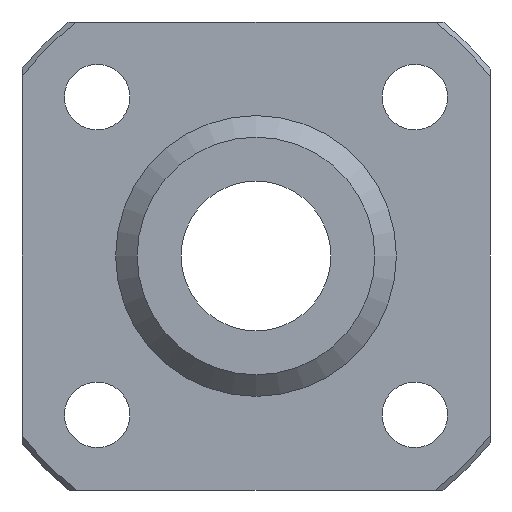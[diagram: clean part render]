
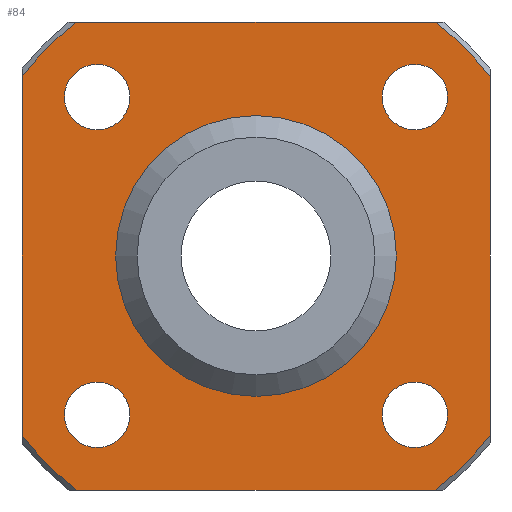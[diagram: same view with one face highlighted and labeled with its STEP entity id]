
A CAD part, left-side view. The second image highlights one B-rep face of the part: STEP entity #84.
In plain terms, the highlighted planar face has unit normal (-1, 0, 0).
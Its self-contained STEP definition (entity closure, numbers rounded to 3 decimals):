
#84=ADVANCED_FACE('',(#143,#144,#145,#146,#147,#148),#149,.T.);
#143=FACE_BOUND('',#246,.T.);
#144=FACE_BOUND('',#247,.T.);
#145=FACE_BOUND('',#248,.T.);
#146=FACE_BOUND('',#249,.T.);
#147=FACE_BOUND('',#250,.T.);
#148=FACE_OUTER_BOUND('',#251,.T.);
#149=PLANE('',#252);
#246=EDGE_LOOP('',(#381));
#247=EDGE_LOOP('',(#382));
#248=EDGE_LOOP('',(#383));
#249=EDGE_LOOP('',(#384));
#250=EDGE_LOOP('',(#385));
#251=EDGE_LOOP('',(#386,#387,#388,#389,#390,#391,#392,#393));
#252=AXIS2_PLACEMENT_3D('',#394,#395,#396);
#381=ORIENTED_EDGE('',*,*,#600,.T.);
#382=ORIENTED_EDGE('',*,*,#601,.F.);
#383=ORIENTED_EDGE('',*,*,#602,.F.);
#384=ORIENTED_EDGE('',*,*,#603,.F.);
#385=ORIENTED_EDGE('',*,*,#604,.F.);
#386=ORIENTED_EDGE('',*,*,#605,.T.);
#387=ORIENTED_EDGE('',*,*,#575,.T.);
#388=ORIENTED_EDGE('',*,*,#606,.T.);
#389=ORIENTED_EDGE('',*,*,#607,.T.);
#390=ORIENTED_EDGE('',*,*,#608,.T.);
#391=ORIENTED_EDGE('',*,*,#609,.T.);
#392=ORIENTED_EDGE('',*,*,#610,.T.);
#393=ORIENTED_EDGE('',*,*,#611,.T.);
#394=CARTESIAN_POINT('',(-8.0,7.5,0.0));
#395=DIRECTION('',(-1.0,0.0,0.0));
#396=DIRECTION('',(0.0,0.0,1.0));
#575=EDGE_CURVE('',#649,#646,#650,.T.);
#600=EDGE_CURVE('',#697,#697,#698,.F.);
#601=EDGE_CURVE('',#699,#699,#700,.T.);
#602=EDGE_CURVE('',#701,#701,#702,.T.);
#603=EDGE_CURVE('',#703,#703,#704,.T.);
#604=EDGE_CURVE('',#705,#705,#706,.T.);
#605=EDGE_CURVE('',#707,#649,#708,.T.);
#606=EDGE_CURVE('',#646,#709,#710,.T.);
#607=EDGE_CURVE('',#709,#711,#712,.T.);
#608=EDGE_CURVE('',#711,#713,#714,.T.);
#609=EDGE_CURVE('',#713,#715,#716,.T.);
#610=EDGE_CURVE('',#715,#717,#718,.T.);
#611=EDGE_CURVE('',#717,#707,#719,.T.);
#646=VERTEX_POINT('',#774);
#649=VERTEX_POINT('',#780);
#650=LINE('',#781,#782);
#697=VERTEX_POINT('',#844);
#698=CIRCLE('',#845,7.5);
#699=VERTEX_POINT('',#846);
#700=CIRCLE('',#847,1.75);
#701=VERTEX_POINT('',#848);
#702=CIRCLE('',#849,1.75);
#703=VERTEX_POINT('',#850);
#704=CIRCLE('',#851,1.75);
#705=VERTEX_POINT('',#852);
#706=CIRCLE('',#853,1.75);
#707=VERTEX_POINT('',#854);
#708=CIRCLE('',#855,15.746);
#709=VERTEX_POINT('',#856);
#710=CIRCLE('',#857,15.746);
#711=VERTEX_POINT('',#858);
#712=LINE('',#859,#860);
#713=VERTEX_POINT('',#861);
#714=CIRCLE('',#862,15.746);
#715=VERTEX_POINT('',#863);
#716=LINE('',#864,#865);
#717=VERTEX_POINT('',#866);
#718=CIRCLE('',#867,15.746);
#719=LINE('',#868,#869);
#774=CARTESIAN_POINT('',(-8.0,-12.5,9.575));
#780=CARTESIAN_POINT('',(-8.0,-12.5,-9.575));
#781=CARTESIAN_POINT('',(-8.0,-12.5,0.0));
#782=VECTOR('',#966,1.0);
#844=CARTESIAN_POINT('',(-8.0,0.,7.5));
#845=AXIS2_PLACEMENT_3D('',#1018,#1019,#1020);
#846=CARTESIAN_POINT('',(-8.0,8.485,-6.735));
#847=AXIS2_PLACEMENT_3D('',#1021,#1022,#1023);
#848=CARTESIAN_POINT('',(-8.0,-8.485,-6.735));
#849=AXIS2_PLACEMENT_3D('',#1024,#1025,#1026);
#850=CARTESIAN_POINT('',(-8.0,-8.485,10.235));
#851=AXIS2_PLACEMENT_3D('',#1027,#1028,#1029);
#852=CARTESIAN_POINT('',(-8.0,8.485,10.235));
#853=AXIS2_PLACEMENT_3D('',#1030,#1031,#1032);
#854=CARTESIAN_POINT('',(-8.0,-9.575,-12.5));
#855=AXIS2_PLACEMENT_3D('',#1033,#1034,#1035);
#856=CARTESIAN_POINT('',(-8.0,-9.575,12.5));
#857=AXIS2_PLACEMENT_3D('',#1036,#1037,#1038);
#858=CARTESIAN_POINT('',(-8.0,9.575,12.5));
#859=CARTESIAN_POINT('',(-8.0,7.5,12.5));
#860=VECTOR('',#1039,1.0);
#861=CARTESIAN_POINT('',(-8.0,12.5,9.575));
#862=AXIS2_PLACEMENT_3D('',#1040,#1041,#1042);
#863=CARTESIAN_POINT('',(-8.0,12.5,-9.575));
#864=CARTESIAN_POINT('',(-8.0,12.5,0.0));
#865=VECTOR('',#1043,1.0);
#866=CARTESIAN_POINT('',(-8.0,9.575,-12.5));
#867=AXIS2_PLACEMENT_3D('',#1044,#1045,#1046);
#868=CARTESIAN_POINT('',(-8.0,7.5,-12.5));
#869=VECTOR('',#1047,1.0);
#966=DIRECTION('',(0.0,0.0,1.0));
#1018=CARTESIAN_POINT('',(-8.0,0.0,0.0));
#1019=DIRECTION('',(-1.0,0.0,0.0));
#1020=DIRECTION('',(0.0,0.0,1.0));
#1021=CARTESIAN_POINT('',(-8.0,8.485,-8.485));
#1022=DIRECTION('',(-1.0,0.0,0.0));
#1023=DIRECTION('',(0.0,0.0,1.0));
#1024=CARTESIAN_POINT('',(-8.0,-8.485,-8.485));
#1025=DIRECTION('',(-1.0,0.0,0.0));
#1026=DIRECTION('',(0.0,0.0,1.0));
#1027=CARTESIAN_POINT('',(-8.0,-8.485,8.485));
#1028=DIRECTION('',(-1.0,0.0,0.0));
#1029=DIRECTION('',(0.0,0.0,1.0));
#1030=CARTESIAN_POINT('',(-8.0,8.485,8.485));
#1031=DIRECTION('',(-1.0,0.0,0.0));
#1032=DIRECTION('',(0.0,0.0,1.0));
#1033=CARTESIAN_POINT('',(-8.0,0.0,0.0));
#1034=DIRECTION('',(-1.0,0.0,0.0));
#1035=DIRECTION('',(0.0,0.0,1.0));
#1036=CARTESIAN_POINT('',(-8.0,0.0,0.0));
#1037=DIRECTION('',(-1.0,0.0,0.0));
#1038=DIRECTION('',(0.0,0.0,1.0));
#1039=DIRECTION('',(0.0,1.0,0.0));
#1040=CARTESIAN_POINT('',(-8.0,0.0,0.0));
#1041=DIRECTION('',(-1.0,0.0,0.0));
#1042=DIRECTION('',(0.0,0.0,1.0));
#1043=DIRECTION('',(0.0,0.0,-1.0));
#1044=CARTESIAN_POINT('',(-8.0,0.0,0.0));
#1045=DIRECTION('',(-1.0,0.0,0.0));
#1046=DIRECTION('',(0.0,0.0,1.0));
#1047=DIRECTION('',(0.0,-1.0,0.0));
